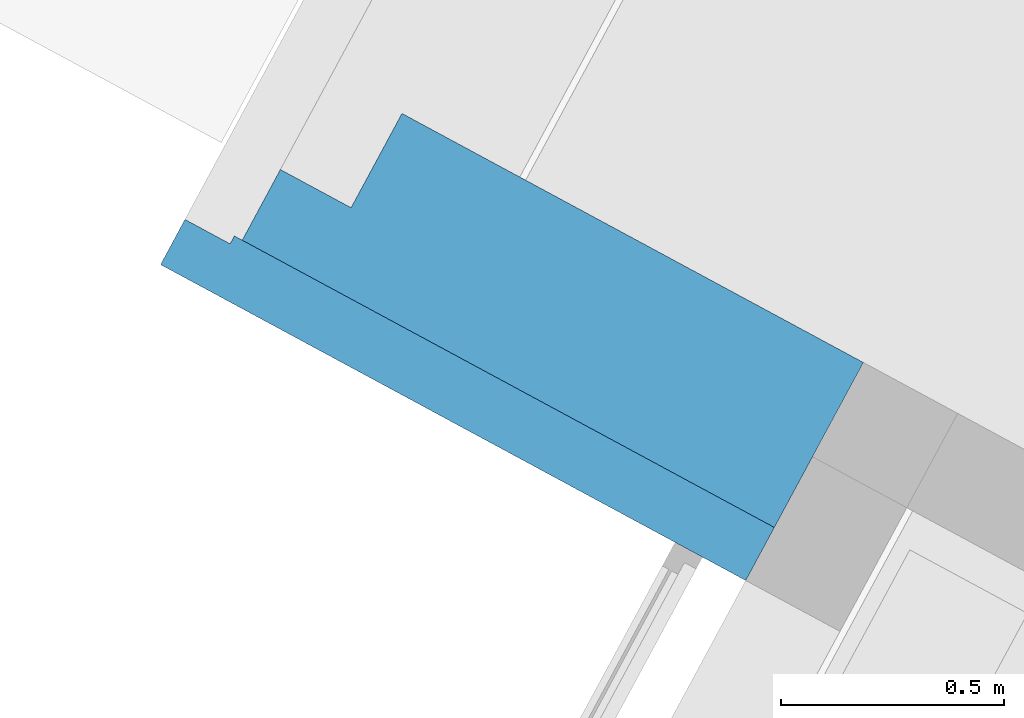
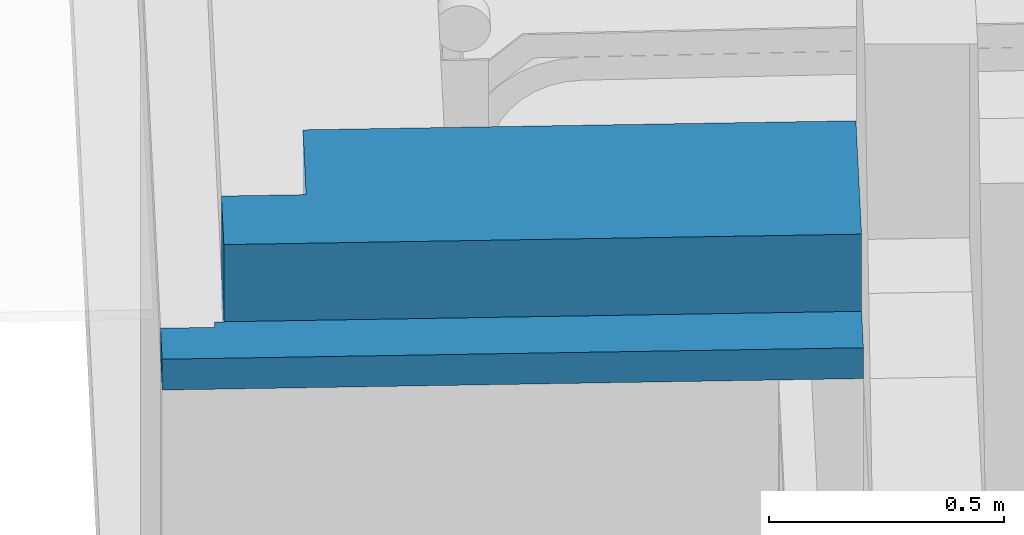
# One storey, part 13 of 52: 1 wall.
"""IFC2X3 building model written with IfcOpenShell, lengths in metres."""

from ifc_helpers import new_model, entity, si_unit, converted_unit, derived_unit, money_unit, direction, frame, origin_with_axes, place, context, subcontext, project, spatial, faceted_brep, material, material_list, type_object, element, save


model = new_model("IFC2X3")

# Units and contexts
model_context = context("Model", 3, precision=1e-05, world=origin_with_axes(), true_north=direction((0.0, 1.0)))
body_context = subcontext(model_context, "Body", "Model", "MODEL_VIEW")
ifc_project = project(units=[si_unit("LENGTHUNIT", "METRE"), si_unit("AREAUNIT", "SQUARE_METRE"), si_unit("VOLUMEUNIT", "CUBIC_METRE"), converted_unit("PLANEANGLEUNIT", "DEGREE", entity("IfcPlaneAngleMeasure", 0.0174532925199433), si_unit("PLANEANGLEUNIT", "RADIAN"), dimensions=[0, 0, 0, 0, 0, 0, 0]), money_unit("EUR"), converted_unit("TIMEUNIT", "Year", entity("IfcTimeMeasure", 31556926.0), si_unit("TIMEUNIT", "SECOND"), dimensions=[0, 0, 1, 0, 0, 0, 0]), si_unit("MASSUNIT", "GRAM", prefix="KILO"), si_unit("THERMODYNAMICTEMPERATUREUNIT", "DEGREE_CELSIUS"), si_unit("LUMINOUSINTENSITYUNIT", "LUMEN"), si_unit("ENERGYUNIT", "JOULE", prefix="MEGA"), derived_unit("THERMALCONDUCTANCEUNIT", [(si_unit("POWERUNIT", "WATT"), 1), (si_unit("LENGTHUNIT", "METRE"), -1), (si_unit("THERMODYNAMICTEMPERATUREUNIT", "KELVIN"), -1)]), derived_unit("SPECIFICHEATCAPACITYUNIT", [(si_unit("ENERGYUNIT", "JOULE"), 1), (si_unit("MASSUNIT", "GRAM", prefix="KILO"), -1), (si_unit("THERMODYNAMICTEMPERATUREUNIT", "KELVIN"), -1)]), derived_unit("MASSDENSITYUNIT", [(si_unit("MASSUNIT", "GRAM", prefix="KILO"), 1), (si_unit("VOLUMEUNIT", "CUBIC_METRE"), -1)])], contexts=[model_context])

# Site, building, storey
site_placement = place(None, frame((-3.949935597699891, 1.740105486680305, 0.0), z_axis=(0.0, 0.0, 1.0), x_axis=(0.8799804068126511, -0.475009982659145, 0.0)))
site = spatial("IfcSite", under=ifc_project, at=site_placement, Name="Gelände", CompositionType="ELEMENT")
building_placement = place(site_placement, origin_with_axes())
building = spatial("IfcBuilding", under=site, at=building_placement, Name="Gebäude", CompositionType="ELEMENT")
storey_placement = place(building_placement, origin_with_axes())
storey = spatial("IfcBuildingStorey", under=building, at=storey_placement, Name="Erdgeschoss", CompositionType="ELEMENT", Elevation=0.0)

# Wall
ifc_material_1 = material(Name="_SIWH - MW Vormauerziegel")
ifc_material_2 = material(Name="_SIWH - Luftschicht vertikal")
ifc_material_3 = material(Name="_SIWH - Dämmung, weich Mineralwolle")
ifc_material_4 = material(Name="_SIWH - Beton, Stahlbeton")
ifc_material_list = material_list([ifc_material_1, ifc_material_2, ifc_material_3, ifc_material_4])
wall_type = type_object("IfcWallType", Name="_SIWH - Sturz Außenwand EG Vordach 555 x 280", PredefinedType="NOTDEFINED")
wall_placement = place(storey_placement, frame((5.357481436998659, 10.65780061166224, 3.620000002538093), z_axis=(0.0, 0.0, 1.0), x_axis=(-1.0, 0.0, 0.0)))
element("IfcWall", 1, at=wall_placement, inside=storey, type_object=wall_type, material=ifc_material_list, Name="A-Wand017", context=body_context, shape_type="Brep", body=[
    faceted_brep([(1.489962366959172, 0.1999999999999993, 3.793663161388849e-09), (1.489962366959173, 0.1999999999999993, 0.08000000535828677), (0.0, 0.1999999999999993, 0.08000000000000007), (0.0, 0.1999999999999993, 0.0), (1.489961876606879, 0.3149999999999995, 0.08000000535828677), (1.489961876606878, 0.3149999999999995, 3.793663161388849e-09), (0.0, 0.3149999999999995, 0.08000000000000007), (0.0, 0.3149999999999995, 0.0)], [[[0, 1, 2, 3]], [[4, 1, 0, 5]], [[1, 4, 6, 2]], [[2, 6, 7, 3]], [[5, 0, 3, 7]], [[4, 5, 7, 6]]]),
    faceted_brep([(1.374962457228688, 0.1799999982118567, 3.793663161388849e-09), (1.374962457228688, 0.1799999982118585, 0.08000000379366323), (0.0, 0.1799999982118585, 0.07999999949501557), (0.0, 0.1799999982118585, 0.0), (1.374962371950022, 0.1999999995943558, 0.08000000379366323), (1.374962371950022, 0.199999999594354, 3.793663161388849e-09), (0.0, 0.1999999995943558, 0.07999999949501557), (0.0, 0.1999999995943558, 0.0)], [[[0, 1, 2, 3]], [[4, 1, 0, 5]], [[1, 4, 6, 2]], [[7, 3, 2, 6]], [[5, 0, 3, 7]], [[4, 5, 7, 6]]]),
    faceted_brep([(1.354963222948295, 3.224425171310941e-10, 3.793663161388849e-09), (1.354963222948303, -1.465709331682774e-09, 0.08000000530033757), (1.354963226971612, 3.224478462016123e-10, 0.2800000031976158), (0.0, 3.224478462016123e-10, 0.2799999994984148), (0.0, 3.224478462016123e-10, 0.0), (1.354962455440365, 0.1799999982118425, 0.08000000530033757), (1.354962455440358, 0.1800000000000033, 3.793663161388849e-09), (1.354962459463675, 0.1799999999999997, 0.2800000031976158), (0.0, 0.1799999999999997, 0.2799999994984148), (0.0, 0.1799999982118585, 0.07999999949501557), (0.0, 0.1799999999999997, 0.0)], [[[0, 1, 2, 3, 4]], [[5, 1, 0, 6]], [[1, 5, 7, 2]], [[3, 2, 7, 8]], [[3, 8, 9, 10, 4]], [[6, 0, 4, 10]], [[5, 6, 10, 9]], [[8, 7, 5, 9]]]),
    faceted_brep([(1.174964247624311, -0.2400000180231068, 0.08000000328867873), (1.174964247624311, -0.2400000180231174, 0.2800000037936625), (0.0, -0.240000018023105, 0.2800000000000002), (0.0, -0.240000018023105, 0.0), (1.174964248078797, -0.240000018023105, 3.793663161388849e-09), (1.174963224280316, 0.0, 0.2800000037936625), (1.174963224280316, 0.0, 0.08000000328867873), (0.0, 0.0, 0.2800000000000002), (0.0, 0.0, 0.0), (1.174963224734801, 0.0, 3.793663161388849e-09)], [[[0, 1, 2, 3, 4]], [[5, 1, 0, 6]], [[1, 5, 7, 2]], [[3, 2, 7, 8]], [[9, 4, 3, 8]], [[6, 0, 4, 9]], [[5, 6, 9, 8, 7]]]),
])

save(model, "model.ifc")
